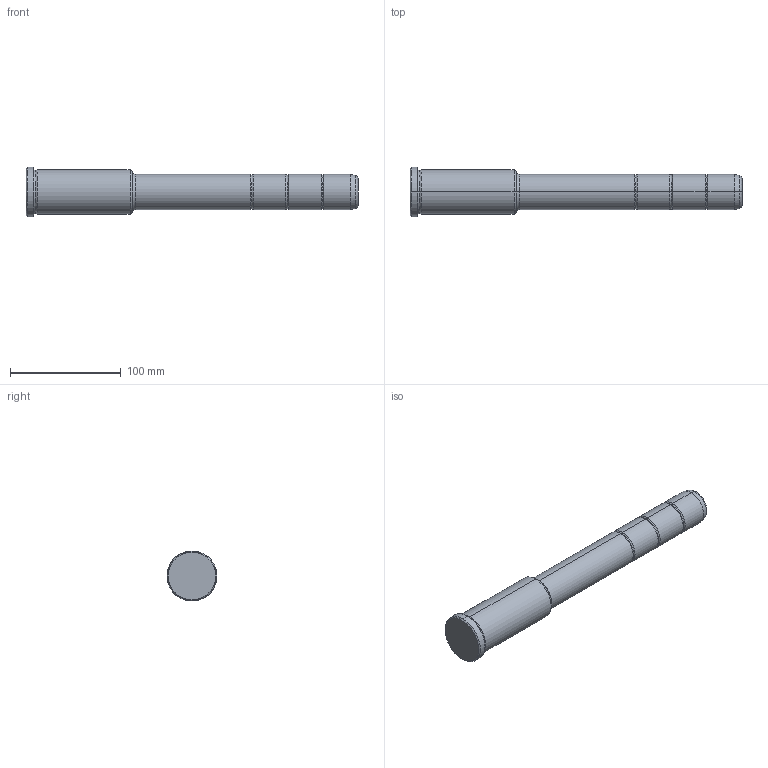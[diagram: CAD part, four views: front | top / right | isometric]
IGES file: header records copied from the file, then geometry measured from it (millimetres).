
Start section: START RECORD GO HERE.
Global section: file name: 351-32X96X300.igs; native system: DASSAULT SYSTEMES CATIA V5 R20 - www.3ds.com; preprocessor: CATIA Version 5 Release 20 ; author: Utente; organization: NB04-ASUS; date: 20210910.143046; units: millimetre
Bounding box: 300 x 45 x 45 mm (x, y, z)
Surface area: 35487.4 mm2 (no closed solid volume)
Topology: 0 solids, 0 shells, 42 faces, 236 edges, 236 vertices
Faces by surface type: revolution 38, plane 4
